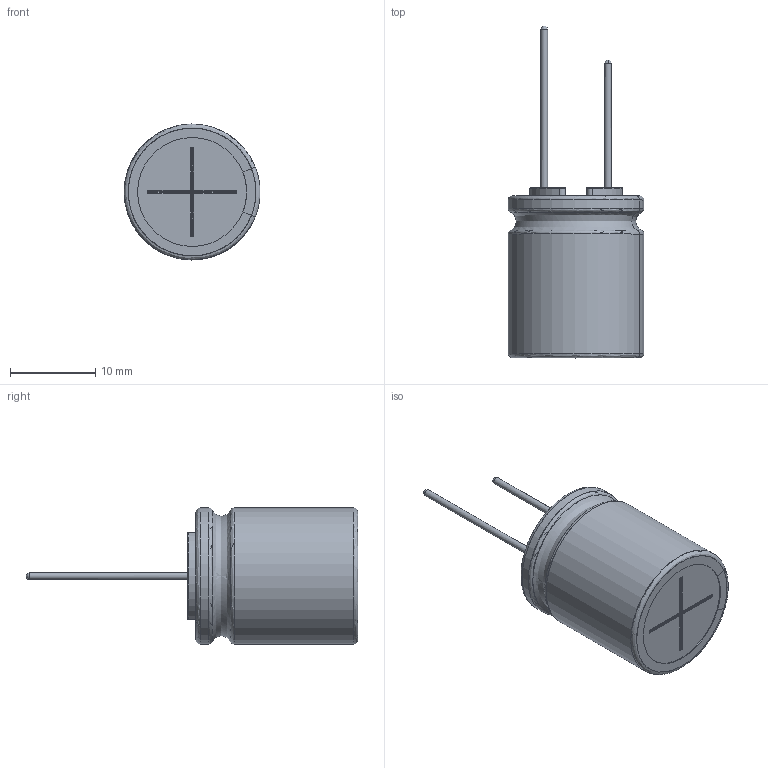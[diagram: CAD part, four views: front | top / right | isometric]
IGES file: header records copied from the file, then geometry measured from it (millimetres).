
Start section: JAMA-IS VERSION  1.0
Bounding box: 15.98 x 39 x 16 mm (x, y, z)
Surface area: 3700 mm2 (no closed solid volume)
Topology: 0 solids, 0 shells, 132 faces, 1511 edges, 1492 vertices
Faces by surface type: bspline 132
